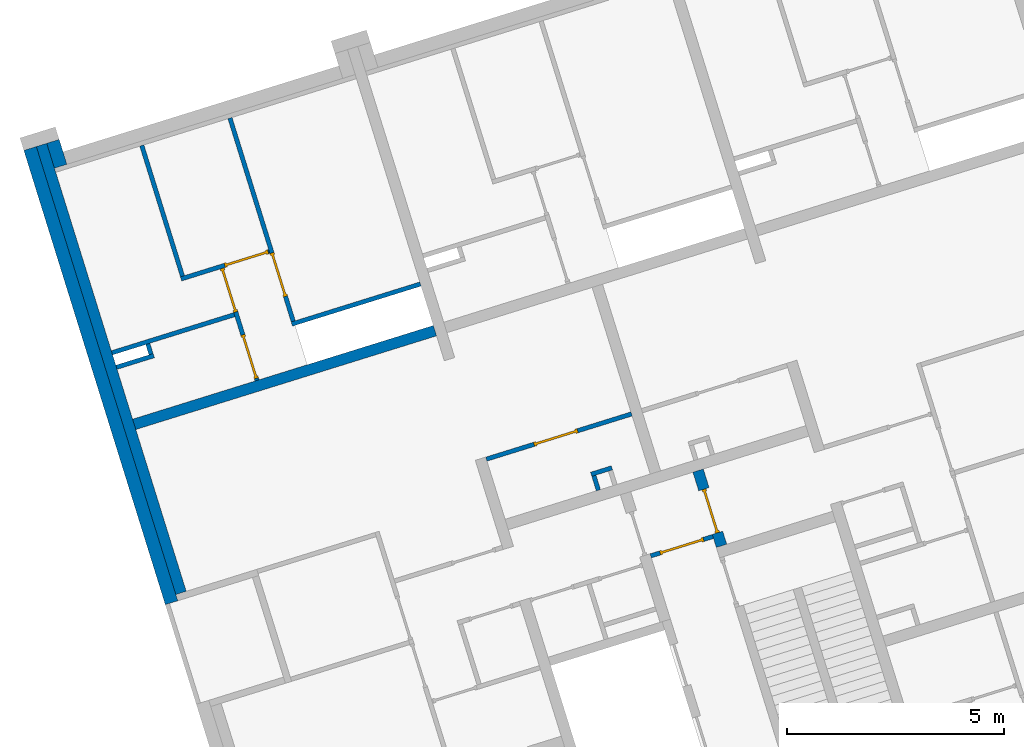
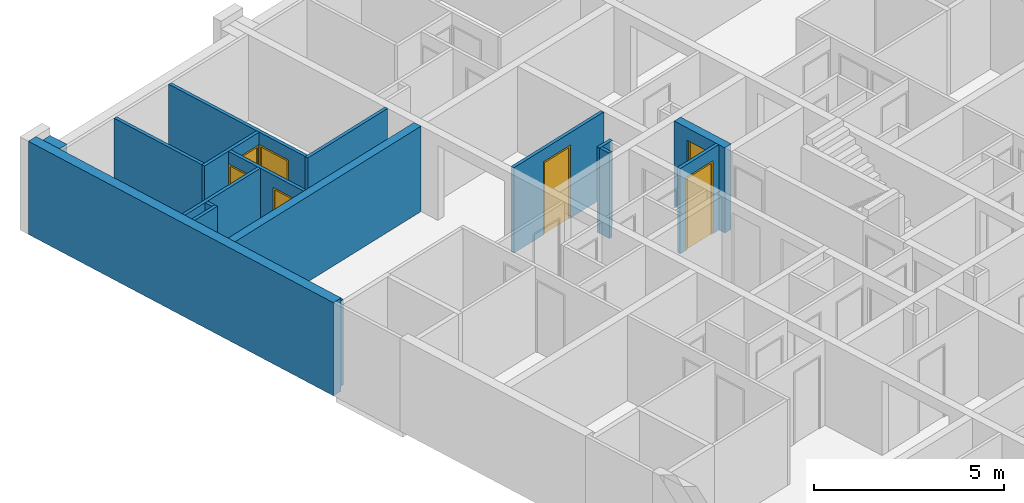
# One storey, part 6 of 12: 17 walls, 7 doors, 10 openings.
"""IFC4 building model written with IfcOpenShell, lengths in metres."""

from ifc_helpers import new_model, entity, si_unit, converted_unit, direction, frame, origin, place, context, subcontext, project, spatial, indexed_curve, outline, extrude, polygons, source, transform, mapped, material, constituent, constituent_set, type_object, type_shapes, element, fill, save


model = new_model("IFC4")

# Units and contexts
model_context = context("Model", 3, precision=1e-05, world=origin(), true_north=direction((6.12323399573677e-17, 1.0)))
body_context = subcontext(model_context, "Body", "Model", "MODEL_VIEW")
ifc_project = project(units=[si_unit("LENGTHUNIT", "METRE"), si_unit("AREAUNIT", "SQUARE_METRE"), si_unit("VOLUMEUNIT", "CUBIC_METRE"), converted_unit("PLANEANGLEUNIT", "DEGREE", entity("IfcPlaneAngleMeasure", 0.0174532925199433), si_unit("PLANEANGLEUNIT", "RADIAN"), dimensions=[0, 0, 0, 0, 0, 0, 0])], contexts=[model_context])

# Site, building, storey
site_placement = place(None, frame((13.1347999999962, 11.9886000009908, 0.0), z_axis=(0.0, 0.0, 1.0), x_axis=(0.954770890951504, 0.297342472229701, 0.0)))
site = spatial("IfcSite", under=ifc_project, at=site_placement, Name="Schiehaven", CompositionType="ELEMENT")
building_placement = place(site_placement, origin())
building = spatial("IfcBuilding", under=site, at=building_placement, Name="VORM huis", CompositionType="ELEMENT")
storey_placement = place(building_placement, frame((0.0, 0.0, 3.9)))
storey = spatial("IfcBuildingStorey", under=building, at=storey_placement, Name="01 eerste verdieping", CompositionType="ELEMENT", Elevation=3.9)

# Walls
ifc_material_1 = material(Name="beton_gewapend_ihw", Category="Miscellaneous")
wall_type_1 = type_object("IfcWallType", Name="Basic Wall:28_WA_skelet_wand 250mm_gen", PredefinedType="STANDARD")
wall_1_placement = place(storey_placement, frame((5.0, 22.925, 0.0), z_axis=(0.0, 0.0, 1.0), x_axis=(0.0, 1.0, 0.0)))
element("IfcWall", 1, at=wall_1_placement, inside=storey, type_object=wall_type_1, material=ifc_material_1, Name="Constructieve wand", ObjectType="Wand", PredefinedType="NOTDEFINED", context=body_context, shape_type="SweptSolid", body=[
    extrude(outline(indexed_curve([(10.8000000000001, 0.125), (-6.64258771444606e-16, 0.125), (6.64258771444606e-16, -0.125), (10.8000000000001, -0.125), (10.8000000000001, 0.125)], self_intersect=False)), origin(), (0.0, 0.0, 1.0), 2.75),
])
ifc_material_2 = material(Name="ntb_ntb_ntb", Category="Miscellaneous")
wall_type_2 = type_object("IfcWallType", Name="Basic Wall: 300mm_gen", PredefinedType="STANDARD")
wall_2_placement = place(storey_placement, frame((4.72500000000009, 22.775, 0.0), z_axis=(0.0, 0.0, 1.0), x_axis=(0.0, 1.0, 0.0)))
element("IfcWall", 2, at=wall_2_placement, inside=storey, type_object=wall_type_2, material=ifc_material_2, Name="Gevelwand", ObjectType="Wand", PredefinedType="NOTDEFINED", context=body_context, shape_type="SweptSolid", body=[
    extrude(outline(indexed_curve([(10.9500000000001, 0.15), (-3.14616801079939e-16, 0.15), (3.14616801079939e-16, -0.15), (10.9500000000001, -0.15), (10.9500000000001, 0.15)], self_intersect=False)), origin(), (0.0, 0.0, 1.0), 3.0),
])
wall_3_placement = place(storey_placement, frame((5.27500000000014, 33.1250000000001, 0.0), z_axis=(0.0, 0.0, 1.0), x_axis=(0.0, 1.0, 0.0)))
element("IfcWall", 3, at=wall_3_placement, inside=storey, type_object=wall_type_2, material=ifc_material_2, Name="Gevelwand", ObjectType="Wand", PredefinedType="NOTDEFINED", context=body_context, shape_type="SweptSolid", body=[
    extrude(outline(indexed_curve([(0.600000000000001, 0.149999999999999), (-9.66298299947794e-16, 0.149999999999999), (9.66298299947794e-16, -0.149999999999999), (0.600000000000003, -0.15), (0.600000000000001, 0.149999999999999)], self_intersect=False)), origin(), (0.0, 0.0, 1.0), 2.75),
])

# Wall, opening, door
wall_type_3 = type_object("IfcWallType", Name="Basic Wall:22_WA_afbouw_binnenwand 250mm_gen", PredefinedType="STANDARD")
wall_4_placement = place(storey_placement, frame((17.2000000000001, 20.26, 0.0), z_axis=(0.0, 0.0, 1.0), x_axis=(0.0, 1.0, 0.0)))
wall_4 = element("IfcWall", 4, at=wall_4_placement, inside=storey, type_object=wall_type_3, material=ifc_material_2, Name="Binnenwand", ObjectType="Wand", PredefinedType="NOTDEFINED", context=body_context, shape_type="Tessellation", body=[
    polygons([(1.36500000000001, -0.125, 2.34999999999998), (1.36500000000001, -0.125, -5.41433564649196e-16), (1.815, -0.125000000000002, -5.41433564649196e-16), (1.815, -0.125000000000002, 2.75), (0.0, -0.124999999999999, 2.75), (0.0, -0.124999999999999, -5.41433564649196e-16), (0.315000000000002, -0.124999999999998, -5.41433564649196e-16), (0.315000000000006, -0.124999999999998, 2.34999999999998), (1.815, 0.125, -5.41433564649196e-16), (1.36500000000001, 0.124999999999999, -5.41433564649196e-16), (1.36500000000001, 0.124999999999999, 2.34999999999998), (0.315000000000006, 0.125, 2.34999999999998), (0.315000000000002, 0.125, -5.41433564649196e-16), (0.215000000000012, 0.124999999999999, 0.0), (0.0, 0.125, -5.41433564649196e-16), (0.0, 0.125, 2.75), (0.215000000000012, 0.124999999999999, 2.75), (0.315000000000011, 0.125, 2.75), (1.815, 0.125, 2.75)], [[[1, 2, 3, 4, 5, 6, 7, 8]], [[9, 10, 11, 12, 13, 14, 15, 16, 17, 18, 19]], [[7, 6, 15, 14, 13]], [[4, 3, 9, 19]], [[5, 4, 19, 18, 17, 16]], [[6, 5, 16, 15]], [[13, 12, 8, 7]], [[11, 10, 2, 1]], [[12, 11, 1, 8]], [[3, 2, 10, 9]]], closed=True),
])
opening_1_placement = place(wall_4_placement, frame((0.315000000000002, -0.125000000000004, 0.0)))
opening_1 = element("IfcOpeningElement", 5, at=opening_1_placement, cuts=wall_4, Name="Woningtoegangsdeur", PredefinedType="OPENING", context=body_context, shape_type="SweptSolid", body=[
    extrude(outline(indexed_curve([(2.34999999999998, 0.0), (2.34999999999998, 1.05), (0.0, 1.05), (0.0, 0.0), (2.34999999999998, 0.0)], self_intersect=False)), frame((0.0, 0.0, 0.0), z_axis=(0.0, 1.0, 0.0), x_axis=(0.0, 0.0, 1.0)), (0.0, 0.0, 1.0), 0.25),
])
ifc_material_3 = material(Name="PD_a_binnenwandopeningen", Category="Miscellaneous")
ifc_constituent_1 = constituent(ifc_material_3, Name="PD_a_binnenwandopeningen", Category="Miscellaneous")
ifc_material_4 = material(Name="metaal_aluminium_ntb", Category="Miscellaneous")
ifc_constituent_2 = constituent(ifc_material_4, Name="metaal_aluminium_ntb", Category="Miscellaneous")
ifc_constituent_set_1 = constituent_set(constituents=[ifc_constituent_1, ifc_constituent_2])
door_type_1 = type_object("IfcDoorType", Name="32_DO_binnendeur enkel:woningtoegangsdeur", OperationType="REVOLVING", PredefinedType="DOOR")
shared_shape_1 = source(origin(), body_context, "Body", "SweptSolid", [
    extrude(outline(indexed_curve([(0.475, -1.16249999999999), (0.525000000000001, -1.16249999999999), (0.525000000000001, 1.18749999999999), (-0.525000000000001, 1.18749999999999), (-0.525000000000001, -1.16249999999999), (-0.475, -1.16249999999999), (-0.475, 1.13749999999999), (0.475, 1.13749999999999), (0.475, -1.16249999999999)], self_intersect=False)), frame((0.525000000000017, 0.174999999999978, 1.16249999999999), z_axis=(0.0, -1.0, 0.0), x_axis=(1.0, 0.0, 0.0)), (0.0, 0.0, 1.0), 0.1),
    extrude(outline(indexed_curve([(-0.475, -0.025), (0.475, -0.025), (0.475, 0.025), (-0.475, 0.025), (-0.475, -0.025)], self_intersect=False)), frame((0.525000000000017, 0.12499999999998, 0.0)), (0.0, 0.0, 1.0), 2.29999999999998),
])
door_1_placement = place(opening_1_placement, origin())
door_1 = element("IfcDoor", 6, at=door_1_placement, inside=storey, type_object=door_type_1, material=ifc_constituent_set_1, Name="Woningtoegangsdeur", ObjectType="Deur", OperationType="REVOLVING", OverallHeight=2.34999999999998, OverallWidth=1.05, PredefinedType="DOOR", context=body_context, shape_type="MappedRepresentation", body=[
    mapped(shared_shape_1, transform((0.0, 0.0, 0.0), scale=1.0)),
])
fill(opening_1, door_1)

# Wall
wall_5_placement = place(storey_placement, frame((5.12500000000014, 26.95, 0.0)))
element("IfcWall", 7, at=wall_5_placement, inside=storey, type_object=wall_type_3, material=ifc_material_2, Name="Binnenwand", ObjectType="Wand", PredefinedType="NOTDEFINED", context=body_context, shape_type="SweptSolid", body=[
    extrude(outline(indexed_curve([(7.24999999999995, 0.124999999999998), (4.69673759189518e-16, 0.125000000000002), (-4.69673759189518e-16, -0.125000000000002), (7.24999999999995, -0.125000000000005), (7.24999999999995, 0.124999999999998)], self_intersect=False)), origin(), (0.0, 0.0, 1.0), 2.75),
])

# Wall, opening, door
wall_type_4 = type_object("IfcWallType", Name="Basic Wall:22_WA_afbouw_binnenwand 100mm_gen", PredefinedType="STANDARD")
wall_6_placement = place(storey_placement, frame((17.0750000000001, 20.525, 0.0), z_axis=(0.0, 0.0, 1.0), x_axis=(-1.0, 0.0, 0.0)))
wall_6 = element("IfcWall", 8, at=wall_6_placement, inside=storey, type_object=wall_type_4, material=ifc_material_2, Name="Binnenwand", ObjectType="Wand", PredefinedType="NOTDEFINED", context=body_context, shape_type="Tessellation", body=[
    polygons([(1.5, -0.0499999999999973, 2.75), (7.85851977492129e-16, -0.0499999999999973, 2.75), (7.85851977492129e-16, -0.0499999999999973, 2.34999999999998), (7.85851977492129e-16, -0.0499999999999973, -5.41433564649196e-16), (0.224999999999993, -0.0499999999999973, -5.41433564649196e-16), (0.224999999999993, -0.0499999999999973, 2.34999999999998), (1.27499999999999, -0.0499999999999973, 2.34999999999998), (1.27499999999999, -0.0499999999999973, -5.41433564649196e-16), (1.5, -0.0499999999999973, -5.41433564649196e-16), (1.5, -0.0499999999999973, 2.34999999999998), (8.45188811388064e-16, 0.0500000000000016, 2.75), (1.5, 0.0500000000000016, 2.75), (1.5, 0.0500000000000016, -5.41433564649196e-16), (1.27499999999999, 0.0500000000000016, -5.41433564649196e-16), (1.27499999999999, 0.0500000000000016, 2.34999999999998), (0.224999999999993, 0.0500000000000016, 2.34999999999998), (0.224999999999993, 0.0500000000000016, -5.41433564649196e-16), (8.45188811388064e-16, 0.0500000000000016, -5.41433564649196e-16)], [[[1, 2, 3, 4, 5, 6, 7, 8, 9, 10]], [[11, 12, 13, 14, 15, 16, 17, 18]], [[4, 18, 17, 5]], [[2, 1, 12, 11]], [[16, 6, 5, 17]], [[6, 16, 15, 7]], [[7, 15, 14, 8]], [[1, 10, 9, 13, 12]], [[4, 3, 2, 11, 18]], [[13, 9, 8, 14]]], closed=True),
])
opening_2_placement = place(wall_6_placement, frame((0.224999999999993, -0.0500000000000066, 0.0)))
opening_2 = element("IfcOpeningElement", 9, at=opening_2_placement, cuts=wall_6, Name="Vluchtdeur", PredefinedType="OPENING", context=body_context, shape_type="SweptSolid", body=[
    extrude(outline(indexed_curve([(2.34999999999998, 1.05), (0.0, 1.05), (0.0, 1.35358391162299e-15), (2.34999999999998, 1.35358391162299e-15), (2.34999999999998, 1.05)], self_intersect=False)), frame((0.0, 0.0, 0.0), z_axis=(0.0, 1.0, 0.0), x_axis=(0.0, 0.0, 1.0)), (0.0, 0.0, 1.0), 0.1),
])
ifc_constituent_3 = constituent(ifc_material_3, Name="PD_a_binnenwandopeningen", Category="Miscellaneous")
ifc_constituent_4 = constituent(ifc_material_4, Name="metaal_aluminium_ntb", Category="Miscellaneous")
ifc_constituent_set_2 = constituent_set(constituents=[ifc_constituent_3, ifc_constituent_4])
door_type_2 = type_object("IfcDoorType", Name="32_DO_binnendeur enkel:binnendeur zelfsluitend 30min", OperationType="NOTDEFINED", PredefinedType="DOOR")
shared_shape_2 = source(origin(), body_context, "Body", "SweptSolid", [
    extrude(outline(indexed_curve([(-1.16249999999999, -0.525000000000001), (1.18749999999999, -0.525), (1.18749999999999, 0.525), (-1.16249999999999, 0.525), (-1.16249999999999, 0.475), (1.13749999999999, 0.475), (1.13749999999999, -0.475), (-1.16249999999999, -0.475), (-1.16249999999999, -0.525000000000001)], self_intersect=False)), frame((0.525000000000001, 0.0, 1.16249999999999), z_axis=(0.0, 1.0, 0.0), x_axis=(0.0, 0.0, 1.0)), (0.0, 0.0, 1.0), 0.1),
    extrude(outline(indexed_curve([(-0.025, -0.475), (0.025, -0.475), (0.025, 0.475), (-0.025, 0.475), (-0.025, -0.475)], self_intersect=False)), frame((0.525000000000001, 0.0499999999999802, 0.0), z_axis=(0.0, 0.0, 1.0), x_axis=(0.0, 1.0, 0.0)), (0.0, 0.0, 1.0), 2.29999999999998),
])
type_shapes(door_type_2, [shared_shape_2])
door_2_placement = place(opening_2_placement, origin())
door_2 = element("IfcDoor", 10, at=door_2_placement, inside=storey, type_object=door_type_2, material=ifc_constituent_set_2, Name="Vluchtdeur", ObjectType="Deur", OperationType="NOTDEFINED", OverallHeight=2.34999999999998, OverallWidth=1.05, PredefinedType="DOOR", context=body_context, shape_type="MappedRepresentation", body=[
    mapped(shared_shape_2, transform((0.0, 0.0, 0.0), scale=1.0)),
])
fill(opening_2, door_2)

# Wall, openings, door
wall_7_placement = place(storey_placement, frame((9.27500000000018, 29.8249999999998, 0.0), z_axis=(0.0, 0.0, 1.0), x_axis=(-1.0, 0.0, 0.0)))
wall_7 = element("IfcWall", 11, at=wall_7_placement, inside=storey, type_object=wall_type_4, material=ifc_material_2, Name="Binnenwand", ObjectType="Wand", PredefinedType="NOTDEFINED", context=body_context, shape_type="Tessellation", body=[
    polygons([(2.12499999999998, -0.0500000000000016, 2.75), (2.02499999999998, -0.0499999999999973, 2.75), (3.02944800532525e-16, -0.0499999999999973, 2.75), (3.02944800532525e-16, -0.0499999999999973, 0.0), (0.0250000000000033, -0.0499999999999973, 0.0), (0.0250000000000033, -0.0499999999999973, 2.34999999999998), (1.075, -0.0500000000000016, 2.34999999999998), (1.075, -0.0500000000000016, 0.0), (2.02499999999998, -0.0499999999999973, 5.41433564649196e-16), (2.12499999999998, -0.0500000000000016, 0.0), (1.40110885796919e-15, 0.0500000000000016, 2.75), (1.09999999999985, 0.0499999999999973, 2.75), (1.19999999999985, 0.0500000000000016, 2.75), (2.12499999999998, 0.049999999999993, 2.75), (2.12499999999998, 0.049999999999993, 0.0), (1.075, 0.0499999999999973, 0.0), (1.075, 0.0499999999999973, 2.34999999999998), (0.0250000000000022, 0.0500000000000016, 2.34999999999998), (0.0250000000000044, 0.0500000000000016, 0.0), (1.40110885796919e-15, 0.0500000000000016, 0.0), (3.18241728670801e-16, 0.0500000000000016, 2.34999999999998)], [[[1, 2, 3, 4, 5, 6, 7, 8, 9, 10]], [[11, 12, 13, 14, 15, 16, 17, 18, 19, 20, 21]], [[4, 20, 19, 5]], [[3, 2, 1, 14, 13, 12, 11]], [[4, 3, 11, 21, 20]], [[18, 6, 5, 19]], [[7, 17, 16, 8]], [[6, 18, 17, 7]], [[1, 10, 15, 14]], [[15, 10, 9, 8, 16]]], closed=True),
])
opening_3_placement = place(wall_7_placement, origin())
element("IfcOpeningElement", 12, at=opening_3_placement, cuts=wall_7, Name="Binnendeur", PredefinedType="OPENING", context=body_context, shape_type="SweptSolid", body=[
    extrude(outline(indexed_curve([(-0.0499999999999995, -1.17499999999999), (0.0500000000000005, -1.17499999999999), (0.0500000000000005, 1.17499999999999), (-0.0499999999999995, 1.17499999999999), (-0.0499999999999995, -1.17499999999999)], self_intersect=False)), frame((1.14999999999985, 0.049999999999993, 1.17499999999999), z_axis=(0.0, 1.0, 0.0), x_axis=(-1.0, 0.0, 0.0)), (0.0, 0.0, 1.0), 1.05),
])
opening_4_placement = place(wall_7_placement, frame((0.0250000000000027, -0.050000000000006, 0.0)))
opening_4 = element("IfcOpeningElement", 13, at=opening_4_placement, cuts=wall_7, Name="Binnendeur", PredefinedType="OPENING", context=body_context, shape_type="SweptSolid", body=[
    extrude(outline(indexed_curve([(2.34999999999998, 2.70716782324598e-16), (2.34999999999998, 1.05), (0.0, 1.05), (0.0, 2.70716782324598e-16), (2.34999999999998, 2.70716782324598e-16)], self_intersect=False)), frame((0.0, 0.0, 0.0), z_axis=(0.0, 1.0, 0.0), x_axis=(0.0, 0.0, 1.0)), (0.0, 0.0, 1.0), 0.1),
])
ifc_constituent_5 = constituent(ifc_material_3, Name="PD_a_binnenwandopeningen", Category="Miscellaneous")
ifc_constituent_6 = constituent(ifc_material_4, Name="metaal_aluminium_ntb", Category="Miscellaneous")
ifc_constituent_set_3 = constituent_set(constituents=[ifc_constituent_5, ifc_constituent_6])
door_type_3 = type_object("IfcDoorType", Name="32_DO_binnendeur enkel:binnendeur", OperationType="REVOLVING", PredefinedType="DOOR")
shared_shape_3 = source(origin(), body_context, "Body", "SweptSolid", [
    extrude(outline(indexed_curve([(0.475, -1.16249999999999), (0.525, -1.16249999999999), (0.525, 1.18749999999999), (-0.525, 1.18749999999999), (-0.525, -1.16249999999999), (-0.475, -1.16249999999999), (-0.475, 1.13749999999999), (0.475, 1.13749999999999), (0.475, -1.16249999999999)], self_intersect=False)), frame((0.525000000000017, 0.100000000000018, 1.16249999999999), z_axis=(0.0, -1.0, 0.0), x_axis=(1.0, 0.0, 0.0)), (0.0, 0.0, 1.0), 0.1),
    extrude(outline(indexed_curve([(-0.475, -0.025), (0.475, -0.025), (0.475, 0.025), (-0.475, 0.025), (-0.475, -0.025)], self_intersect=False)), frame((0.525000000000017, 0.0499999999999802, 0.0)), (0.0, 0.0, 1.0), 2.29999999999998),
])
door_3_placement = place(opening_4_placement, origin())
door_3 = element("IfcDoor", 14, at=door_3_placement, inside=storey, type_object=door_type_3, material=ifc_constituent_set_3, Name="Binnendeur", ObjectType="Deur", OperationType="REVOLVING", OverallHeight=2.34999999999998, OverallWidth=1.05, PredefinedType="DOOR", context=body_context, shape_type="MappedRepresentation", body=[
    mapped(shared_shape_3, transform((0.0, 0.0, 0.0), scale=1.0)),
])
fill(opening_4, door_3)

# Wall
wall_8_placement = place(storey_placement, frame((9.27500000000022, 28.0749999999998, 0.0)))
element("IfcWall", 15, at=wall_8_placement, inside=storey, type_object=wall_type_4, material=ifc_material_2, Name="Binnenwand", ObjectType="Wand", PredefinedType="NOTDEFINED", context=body_context, shape_type="SweptSolid", body=[
    extrude(outline(indexed_curve([(3.10000000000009, 0.0500000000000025), (1.60901361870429e-16, 0.0500000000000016), (-1.60901361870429e-16, -0.0500000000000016), (3.10000000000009, -0.0500000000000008), (3.10000000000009, 0.0500000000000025)], self_intersect=False)), origin(), (0.0, 0.0, 1.0), 2.75),
])

# Wall, openings, door
wall_9_placement = place(storey_placement, frame((9.32500000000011, 33.0249999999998, 0.0), z_axis=(0.0, 0.0, 1.0), x_axis=(0.0, -1.0, 0.0)))
wall_9 = element("IfcWall", 16, at=wall_9_placement, inside=storey, type_object=wall_type_4, material=ifc_material_2, Name="Binnenwand", ObjectType="Wand", PredefinedType="NOTDEFINED", context=body_context, shape_type="Tessellation", body=[
    polygons([(4.90000000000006, -0.050000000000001, 2.75), (3.25000000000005, -0.0500000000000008, 2.75), (3.15000000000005, -0.0500000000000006, 2.75), (4.33146851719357e-15, -0.0500000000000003, 2.75), (4.33146851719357e-15, -0.0500000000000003, 0.0), (3.15000000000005, -0.0500000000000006, 5.41433564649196e-16), (3.25000000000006, -0.0500000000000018, 0.0), (3.25000000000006, -0.0500000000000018, 2.34999999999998), (4.30000000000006, -0.0500000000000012, 2.34999999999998), (4.30000000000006, -0.0500000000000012, 0.0), (4.90000000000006, -0.050000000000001, 0.0), (0.0, 0.0499999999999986, 2.75), (4.90000000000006, 0.0499999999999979, 2.75), (4.90000000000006, 0.0499999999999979, 0.0), (4.30000000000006, 0.0499999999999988, 0.0), (4.30000000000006, 0.0499999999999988, 2.34999999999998), (3.25000000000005, 0.0499999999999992, 2.34999999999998), (3.25000000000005, 0.0499999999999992, 0.0), (0.0, 0.0499999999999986, 0.0)], [[[1, 2, 3, 4, 5, 6, 7, 8, 9, 10, 11]], [[12, 13, 14, 15, 16, 17, 18, 19]], [[5, 19, 18, 7, 6]], [[4, 3, 2, 1, 13, 12]], [[5, 4, 12, 19]], [[1, 11, 14, 13]], [[9, 16, 15, 10]], [[17, 8, 7, 18]], [[16, 9, 8, 17]], [[14, 11, 10, 15]]], closed=True),
])
opening_5_placement = place(wall_9_placement, frame((4.30000000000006, 0.0500000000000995, 0.0)))
opening_5 = element("IfcOpeningElement", 17, at=opening_5_placement, cuts=wall_9, Name="Binnendeur", PredefinedType="OPENING", context=body_context, shape_type="SweptSolid", body=[
    extrude(outline(indexed_curve([(2.34999999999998, 1.05633300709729e-29), (2.34999999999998, 1.05), (0.0, 1.05), (0.0, 1.05633300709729e-29), (2.34999999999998, 1.05633300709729e-29)], self_intersect=False)), frame((0.0, 0.0, 0.0), z_axis=(0.0, -1.0, 0.0), x_axis=(0.0, 0.0, 1.0)), (0.0, 0.0, 1.0), 0.1),
])
opening_6_placement = place(wall_9_placement, frame((33.0249999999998, -9.32500000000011, 0.0), z_axis=(0.0, 0.0, 1.0), x_axis=(0.0, 1.0, 0.0)))
element("IfcOpeningElement", 18, at=opening_6_placement, cuts=wall_9, Name="Binnendeur", PredefinedType="OPENING", context=body_context, shape_type="SweptSolid", body=[
    extrude(outline(indexed_curve([(-1.17499999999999, -0.524999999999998), (1.17499999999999, -0.525000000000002), (1.17499999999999, 0.525000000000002), (-1.17499999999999, 0.525000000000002), (-1.17499999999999, -0.524999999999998)], self_intersect=False)), frame((7.8510000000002, 29.2499999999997, 1.17499999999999), z_axis=(1.0, 0.0, 0.0), x_axis=(0.0, 0.0, -1.0)), (0.0, 0.0, 1.0), 3.048),
])
ifc_constituent_7 = constituent(ifc_material_3, Name="PD_a_binnenwandopeningen", Category="Miscellaneous")
ifc_constituent_8 = constituent(ifc_material_4, Name="metaal_aluminium_ntb", Category="Miscellaneous")
ifc_constituent_set_4 = constituent_set(constituents=[ifc_constituent_7, ifc_constituent_8])
door_4_placement = place(opening_5_placement, frame((0.0, 0.0, 0.0), z_axis=(0.0, 0.0, 1.0), x_axis=(-1.0, 0.0, 0.0)))
door_4 = element("IfcDoor", 19, at=door_4_placement, inside=storey, type_object=door_type_3, material=ifc_constituent_set_4, Name="Binnendeur", ObjectType="Deur", OperationType="REVOLVING", OverallHeight=2.34999999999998, OverallWidth=1.05, PredefinedType="DOOR", context=body_context, shape_type="MappedRepresentation", body=[
    mapped(shared_shape_3, transform((0.0, 0.0, 0.0), scale=1.0)),
])
fill(opening_5, door_4)

# Wall
wall_10_placement = place(storey_placement, frame((7.20000000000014, 33.0249999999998, 0.0), z_axis=(0.0, 0.0, 1.0), x_axis=(0.0, -1.0, 0.0)))
element("IfcWall", 20, at=wall_10_placement, inside=storey, type_object=wall_type_4, material=ifc_material_2, Name="Binnenwand", ObjectType="Wand", PredefinedType="NOTDEFINED", context=body_context, shape_type="SweptSolid", body=[
    extrude(outline(indexed_curve([(3.15000000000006, 0.0499999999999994), (1.15239371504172e-15, 0.0499999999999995), (-1.15239371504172e-15, -0.0499999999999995), (3.15000000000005, -0.0499999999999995), (3.15000000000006, 0.0499999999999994)], self_intersect=False)), origin(), (0.0, 0.0, 1.0), 2.75),
])

# Wall, openings, doors
wall_11_placement = place(storey_placement, frame((8.12500000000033, 29.7749999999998, 0.0), z_axis=(0.0, 0.0, 1.0), x_axis=(0.0, -1.0, 0.0)))
wall_11 = element("IfcWall", 21, at=wall_11_placement, inside=storey, type_object=wall_type_4, material=ifc_material_2, Name="Binnenwand", ObjectType="Wand", PredefinedType="NOTDEFINED", context=body_context, shape_type="Tessellation", body=[
    polygons([(2.69999999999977, -0.0500000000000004, 2.75), (1.15000000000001, -0.0500000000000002, 2.75), (1.05000000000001, -0.05, 2.75), (4.33146851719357e-15, -0.0499999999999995, 2.75), (4.33146851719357e-15, -0.0499999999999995, 2.34999999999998), (1.05, -0.0500000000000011, 2.34999999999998), (1.05, -0.05, 0.0), (1.15000000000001, -0.0500000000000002, 5.41433564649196e-16), (1.59999999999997, -0.0499999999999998, 0.0), (1.59999999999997, -0.0499999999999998, 2.34999999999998), (2.64999999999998, -0.0500000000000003, 2.34999999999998), (2.64999999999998, -0.0500000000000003, 0.0), (2.69999999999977, -0.0500000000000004, 0.0), (0.0, 0.0499999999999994, 2.75), (2.69999999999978, 0.0499999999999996, 2.75), (2.69999999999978, 0.0499999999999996, 0.0), (2.64999999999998, 0.0499999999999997, 0.0), (2.64999999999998, 0.0499999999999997, 2.34999999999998), (1.59999999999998, 0.0500000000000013, 2.34999999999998), (1.59999999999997, 0.0500000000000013, 0.0), (1.05, 0.0499999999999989, 0.0), (1.05, 0.0499999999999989, 2.34999999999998), (0.0, 0.0499999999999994, 2.34999999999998)], [[[1, 2, 3, 4, 5, 6, 7, 8, 9, 10, 11, 12, 13]], [[14, 15, 16, 17, 18, 19, 20, 21, 22, 23]], [[12, 17, 16, 13]], [[4, 3, 2, 1, 15, 14]], [[19, 18, 11, 10]], [[18, 17, 12, 11]], [[20, 19, 10, 9]], [[4, 14, 23, 5]], [[6, 22, 21, 7]], [[22, 6, 5, 23]], [[1, 13, 16, 15]], [[20, 9, 8, 7, 21]]], closed=True),
])
opening_7_placement = place(wall_11_placement, frame((1.59999999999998, -0.049999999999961, 0.0)))
opening_7 = element("IfcOpeningElement", 22, at=opening_7_placement, cuts=wall_11, Name="Binnendeur", PredefinedType="OPENING", context=body_context, shape_type="SweptSolid", body=[
    extrude(outline(indexed_curve([(2.34999999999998, 1.25625412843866e-29), (2.34999999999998, 1.05), (0.0, 1.05), (0.0, 1.25625412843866e-29), (2.34999999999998, 1.25625412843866e-29)], self_intersect=False)), frame((0.0, 0.0, 0.0), z_axis=(0.0, 1.0, 0.0), x_axis=(0.0, 0.0, 1.0)), (0.0, 0.0, 1.0), 0.1),
])
opening_8_placement = place(wall_11_placement, frame((29.7749999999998, -8.12500000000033, 0.0), z_axis=(0.0, 0.0, 1.0), x_axis=(0.0, 1.0, 0.0)))
element("IfcOpeningElement", 23, at=opening_8_placement, cuts=wall_11, Name="Binnendeur", PredefinedType="OPENING", context=body_context, shape_type="SweptSolid", body=[
    extrude(outline(indexed_curve([(-0.525000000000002, -1.17499999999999), (0.525000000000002, -1.17499999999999), (0.524999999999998, 1.17499999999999), (-0.525000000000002, 1.17499999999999), (-0.525000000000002, -1.17499999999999)], self_intersect=False)), frame((6.55100000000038, 27.6499999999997, 1.17499999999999), z_axis=(1.0, 0.0, 0.0), x_axis=(0.0, -1.0, 0.0)), (0.0, 0.0, 1.0), 3.048),
])
opening_9_placement = place(wall_11_placement, frame((0.0, -0.05, 0.0)))
opening_9 = element("IfcOpeningElement", 24, at=opening_9_placement, cuts=wall_11, Name="Binnendeur", PredefinedType="OPENING", context=body_context, shape_type="SweptSolid", body=[
    extrude(outline(indexed_curve([(2.34999999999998, 5.94114809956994e-32), (2.34999999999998, 1.05), (0.0, 1.05), (0.0, 5.94114809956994e-32), (2.34999999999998, 5.94114809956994e-32)], self_intersect=False)), frame((0.0, 0.0, 0.0), z_axis=(0.0, 1.0, 0.0), x_axis=(0.0, 0.0, 1.0)), (0.0, 0.0, 1.0), 0.1),
])
ifc_constituent_9 = constituent(ifc_material_3, Name="PD_a_binnenwandopeningen", Category="Miscellaneous")
ifc_constituent_10 = constituent(ifc_material_4, Name="metaal_aluminium_ntb", Category="Miscellaneous")
ifc_constituent_set_5 = constituent_set(constituents=[ifc_constituent_9, ifc_constituent_10])
door_5_placement = place(opening_7_placement, origin())
door_5 = element("IfcDoor", 25, at=door_5_placement, inside=storey, type_object=door_type_3, material=ifc_constituent_set_5, Name="Binnendeur", ObjectType="Deur", OperationType="REVOLVING", OverallHeight=2.34999999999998, OverallWidth=1.05, PredefinedType="DOOR", context=body_context, shape_type="MappedRepresentation", body=[
    mapped(shared_shape_3, transform((0.0, 0.0, 0.0), scale=1.0)),
])
fill(opening_7, door_5)
ifc_constituent_11 = constituent(ifc_material_3, Name="PD_a_binnenwandopeningen", Category="Miscellaneous")
ifc_constituent_12 = constituent(ifc_material_4, Name="metaal_aluminium_ntb", Category="Miscellaneous")
ifc_constituent_set_6 = constituent_set(constituents=[ifc_constituent_11, ifc_constituent_12])
door_6_placement = place(opening_9_placement, origin())
door_6 = element("IfcDoor", 26, at=door_6_placement, inside=storey, type_object=door_type_3, material=ifc_constituent_set_6, Name="Binnendeur", ObjectType="Deur", OperationType="REVOLVING", OverallHeight=2.34999999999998, OverallWidth=1.05, PredefinedType="DOOR", context=body_context, shape_type="MappedRepresentation", body=[
    mapped(shared_shape_3, transform((0.0, 0.0, 0.0), scale=1.0)),
])
fill(opening_9, door_6)

# Walls
wall_12_placement = place(storey_placement, frame((8.07500000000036, 28.6749999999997, 0.0), z_axis=(0.0, 0.0, 1.0), x_axis=(-1.0, 0.0, 0.0)))
element("IfcWall", 27, at=wall_12_placement, inside=storey, type_object=wall_type_4, material=ifc_material_2, Name="Binnenwand", ObjectType="Wand", PredefinedType="NOTDEFINED", context=body_context, shape_type="SweptSolid", body=[
    extrude(outline(indexed_curve([(2.95000000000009, 0.0500000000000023), (7.64846406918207e-18, 0.0500000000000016), (-7.64846406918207e-18, -0.0500000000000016), (2.95000000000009, -0.050000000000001), (2.95000000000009, 0.0500000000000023)], self_intersect=False)), origin(), (0.0, 0.0, 1.0), 2.75),
])
wall_13_placement = place(storey_placement, frame((5.12500000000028, 28.3249999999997, 0.0)))
element("IfcWall", 28, at=wall_13_placement, inside=storey, type_object=wall_type_4, material=ifc_material_2, Name="Binnenwand", ObjectType="Wand", PredefinedType="NOTDEFINED", context=body_context, shape_type="SweptSolid", body=[
    extrude(outline(indexed_curve([(0.899999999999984, 0.0500000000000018), (1.10344093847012e-16, 0.0500000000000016), (-1.10344093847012e-16, -0.0500000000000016), (0.899999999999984, -0.0500000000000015), (0.899999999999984, 0.0500000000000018)], self_intersect=False)), origin(), (0.0, 0.0, 1.0), 2.75),
])
wall_14_placement = place(storey_placement, frame((5.97500000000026, 28.3749999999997, 0.0), z_axis=(0.0, 0.0, 1.0), x_axis=(0.0, 1.0, 0.0)))
element("IfcWall", 29, at=wall_14_placement, inside=storey, type_object=wall_type_4, material=ifc_material_2, Name="Binnenwand", ObjectType="Wand", PredefinedType="NOTDEFINED", context=body_context, shape_type="SweptSolid", body=[
    extrude(outline(indexed_curve([(0.250000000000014, 0.0500000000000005), (1.09051559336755e-15, 0.0500000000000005), (-1.09051559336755e-15, -0.0500000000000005), (0.250000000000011, -0.0500000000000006), (0.250000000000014, 0.0500000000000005)], self_intersect=False)), origin(), (0.0, 0.0, 1.0), 2.75),
])

# Wall, opening, door
wall_15_placement = place(storey_placement, frame((16.1250000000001, 23.775, 0.0), z_axis=(0.0, 0.0, 1.0), x_axis=(-1.0, 0.0, 0.0)))
wall_15 = element("IfcWall", 30, at=wall_15_placement, inside=storey, type_object=wall_type_4, material=ifc_material_2, Name="Binnenwand", ObjectType="Wand", PredefinedType="NOTDEFINED", context=body_context, shape_type="Tessellation", body=[
    polygons([(3.50000000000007, -0.0499999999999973, -5.41433564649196e-16), (3.50000000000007, -0.0499999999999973, 2.75), (8.89436509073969e-16, -0.0499999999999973, 2.75), (8.89436509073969e-16, -0.0499999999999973, -5.41433564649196e-16), (1.29999999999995, -0.0499999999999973, -5.41433564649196e-16), (1.29999999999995, -0.0499999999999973, 2.34999999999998), (2.34999999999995, -0.0500000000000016, 2.34999999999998), (2.34999999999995, -0.0499999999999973, -5.41433564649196e-16), (3.50000000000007, 0.0500000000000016, 2.75), (3.50000000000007, 0.0500000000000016, -5.41433564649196e-16), (2.34999999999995, 0.0499999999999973, -5.41433564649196e-16), (2.34999999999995, 0.0499999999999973, 2.34999999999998), (1.29999999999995, 0.0500000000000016, 2.34999999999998), (1.29999999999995, 0.0500000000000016, -5.41433564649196e-16), (6.1299804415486e-16, 0.0500000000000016, -5.41433564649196e-16), (6.1299804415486e-16, 0.0500000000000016, 2.75)], [[[1, 2, 3, 4, 5, 6, 7, 8]], [[9, 10, 11, 12, 13, 14, 15, 16]], [[4, 15, 14, 5]], [[2, 1, 10, 9]], [[3, 2, 9, 16]], [[4, 3, 16, 15]], [[7, 12, 11, 8]], [[13, 6, 5, 14]], [[12, 7, 6, 13]], [[10, 1, 8, 11]]], closed=True),
])
opening_10_placement = place(wall_15_placement, frame((2.34999999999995, 0.0499999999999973, 0.0)))
opening_10 = element("IfcOpeningElement", 31, at=opening_10_placement, cuts=wall_15, Name="Binnendeur", PredefinedType="OPENING", context=body_context, shape_type="SweptSolid", body=[
    extrude(outline(indexed_curve([(2.34999999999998, 1.35358391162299e-15), (2.34999999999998, 1.05), (0.0, 1.05), (0.0, 1.35358391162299e-15), (2.34999999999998, 1.35358391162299e-15)], self_intersect=False)), frame((0.0, 0.0, 0.0), z_axis=(0.0, -1.0, 0.0), x_axis=(0.0, 0.0, 1.0)), (0.0, 0.0, 1.0), 0.1),
])
ifc_constituent_13 = constituent(ifc_material_3, Name="PD_a_binnenwandopeningen", Category="Miscellaneous")
ifc_constituent_14 = constituent(ifc_material_4, Name="metaal_aluminium_ntb", Category="Miscellaneous")
ifc_constituent_set_7 = constituent_set(constituents=[ifc_constituent_13, ifc_constituent_14])
door_7_placement = place(opening_10_placement, frame((0.0, 0.0, 0.0), z_axis=(0.0, 0.0, 1.0), x_axis=(-1.0, 0.0, 0.0)))
door_7 = element("IfcDoor", 32, at=door_7_placement, inside=storey, type_object=door_type_3, material=ifc_constituent_set_7, Name="Binnendeur", ObjectType="Deur", OperationType="REVOLVING", OverallHeight=2.34999999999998, OverallWidth=1.05, PredefinedType="DOOR", context=body_context, shape_type="MappedRepresentation", body=[
    mapped(shared_shape_3, transform((0.0, 0.0, 0.0), scale=1.0)),
])
fill(opening_10, door_7)

# Walls
wall_16_placement = place(storey_placement, frame((14.8750000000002, 22.325, 0.0), z_axis=(0.0, 0.0, 1.0), x_axis=(0.0, 1.0, 0.0)))
element("IfcWall", 33, at=wall_16_placement, inside=storey, type_object=wall_type_4, material=ifc_material_2, Name="Binnenwand", ObjectType="Wand", PredefinedType="NOTDEFINED", context=body_context, shape_type="SweptSolid", body=[
    extrude(outline(indexed_curve([(0.350000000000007, 0.0499999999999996), (-3.23853597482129e-16, 0.0499999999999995), (3.23853597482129e-16, -0.0499999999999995), (0.350000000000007, -0.0499999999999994), (0.350000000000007, 0.0499999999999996)], self_intersect=False)), origin(), (0.0, 0.0, 1.0), 2.75),
])
wall_17_placement = place(storey_placement, frame((15.3250000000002, 22.725, 0.0), z_axis=(0.0, 0.0, 1.0), x_axis=(-1.0, 0.0, 0.0)))
element("IfcWall", 34, at=wall_17_placement, inside=storey, type_object=wall_type_4, material=ifc_material_2, Name="Binnenwand", ObjectType="Wand", PredefinedType="NOTDEFINED", context=body_context, shape_type="SweptSolid", body=[
    extrude(outline(indexed_curve([(0.499999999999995, 0.0500000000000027), (3.2770555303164e-16, 0.0500000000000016), (-3.2770555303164e-16, -0.0500000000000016), (0.499999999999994, -0.0500000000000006), (0.499999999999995, 0.0500000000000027)], self_intersect=False)), origin(), (0.0, 0.0, 1.0), 2.75),
])

save(model, "model.ifc")
